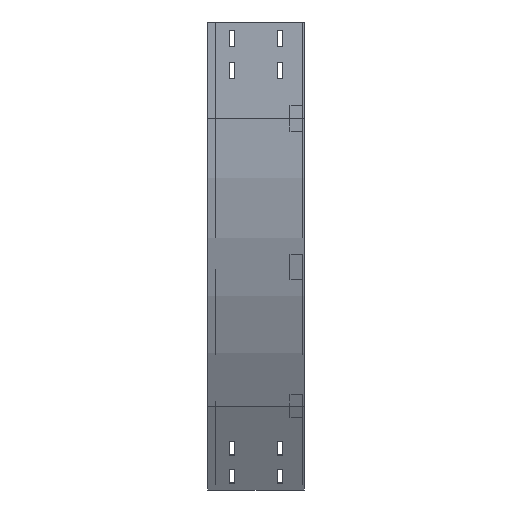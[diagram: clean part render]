
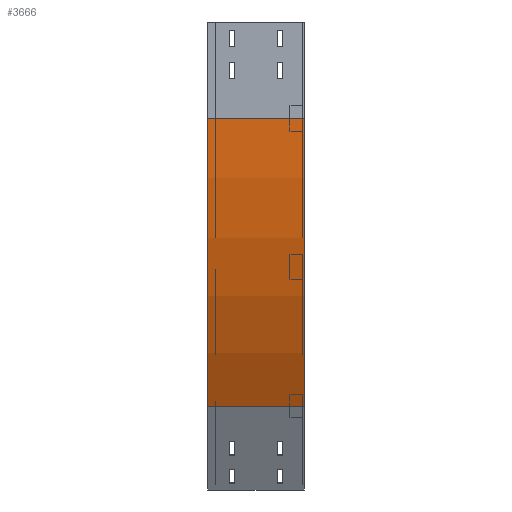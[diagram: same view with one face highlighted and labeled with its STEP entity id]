
A CAD part, left-side view. The second image highlights one B-rep face of the part: STEP entity #3666.
In plain terms, the highlighted cylindrical face has radius 900 mm (diameter 1800 mm), a partial arc.
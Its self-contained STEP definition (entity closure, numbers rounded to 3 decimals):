
#237 = DIRECTION ( 'NONE',  ( 0., 0., -1. ) ) ;
#404 = CIRCLE ( 'NONE', #2519, 900. ) ;
#557 = VECTOR ( 'NONE', #882, 1000. ) ;
#565 = DIRECTION ( 'NONE',  ( -1., 0., 0. ) ) ;
#568 = ORIENTED_EDGE ( 'NONE', *, *, #3013, .F. ) ;
#835 = EDGE_CURVE ( 'NONE', #2375, #3553, #2350, .T. ) ;
#852 = DIRECTION ( 'NONE',  ( -1., 0., 0. ) ) ;
#882 = DIRECTION ( 'NONE',  ( 0., -1., 0. ) ) ;
#989 = AXIS2_PLACEMENT_3D ( 'NONE', #1966, #2010, #237 ) ;
#1162 = VERTEX_POINT ( 'NONE', #3798 ) ;
#1191 = DIRECTION ( 'NONE',  ( 0., -1., 0. ) ) ;
#1293 = EDGE_LOOP ( 'NONE', ( #568, #1343, #2365, #3701 ) ) ;
#1300 = CARTESIAN_POINT ( 'NONE',  ( 120.577, 0., -600. ) ) ;
#1343 = ORIENTED_EDGE ( 'NONE', *, *, #3719, .F. ) ;
#1553 = CIRCLE ( 'NONE', #1801, 900. ) ;
#1685 = VERTEX_POINT ( 'NONE', #3548 ) ;
#1801 = AXIS2_PLACEMENT_3D ( 'NONE', #2330, #3518, #565 ) ;
#1944 = CARTESIAN_POINT ( 'NONE',  ( 0., 0., -150. ) ) ;
#1966 = CARTESIAN_POINT ( 'NONE',  ( 900., 0., -150. ) ) ;
#2010 = DIRECTION ( 'NONE',  ( 0., -1., 0. ) ) ;
#2131 = EDGE_CURVE ( 'NONE', #1685, #2375, #404, .T. ) ;
#2215 = CYLINDRICAL_SURFACE ( 'NONE', #989, 900. ) ;
#2330 = CARTESIAN_POINT ( 'NONE',  ( 900., 0., -150. ) ) ;
#2350 = LINE ( 'NONE', #3539, #557 ) ;
#2360 = CARTESIAN_POINT ( 'NONE',  ( 900., 150., -150. ) ) ;
#2365 = ORIENTED_EDGE ( 'NONE', *, *, #2131, .T. ) ;
#2375 = VERTEX_POINT ( 'NONE', #2782 ) ;
#2519 = AXIS2_PLACEMENT_3D ( 'NONE', #2360, #1191, #852 ) ;
#2782 = CARTESIAN_POINT ( 'NONE',  ( 120.577, 150., -600. ) ) ;
#3013 = EDGE_CURVE ( 'NONE', #1162, #3553, #1553, .T. ) ;
#3098 = VECTOR ( 'NONE', #3469, 1000. ) ;
#3469 = DIRECTION ( 'NONE',  ( 0., -1., 0. ) ) ;
#3511 = LINE ( 'NONE', #1944, #3098 ) ;
#3518 = DIRECTION ( 'NONE',  ( 0., -1., 0. ) ) ;
#3539 = CARTESIAN_POINT ( 'NONE',  ( 120.577, 0., -600. ) ) ;
#3548 = CARTESIAN_POINT ( 'NONE',  ( 0., 150., -150. ) ) ;
#3553 = VERTEX_POINT ( 'NONE', #1300 ) ;
#3666 = ADVANCED_FACE ( 'NONE', ( #3689 ), #2215, .T. ) ;
#3689 = FACE_OUTER_BOUND ( 'NONE', #1293, .T. ) ;
#3701 = ORIENTED_EDGE ( 'NONE', *, *, #835, .T. ) ;
#3719 = EDGE_CURVE ( 'NONE', #1685, #1162, #3511, .T. ) ;
#3798 = CARTESIAN_POINT ( 'NONE',  ( 0., 0., -150. ) ) ;
